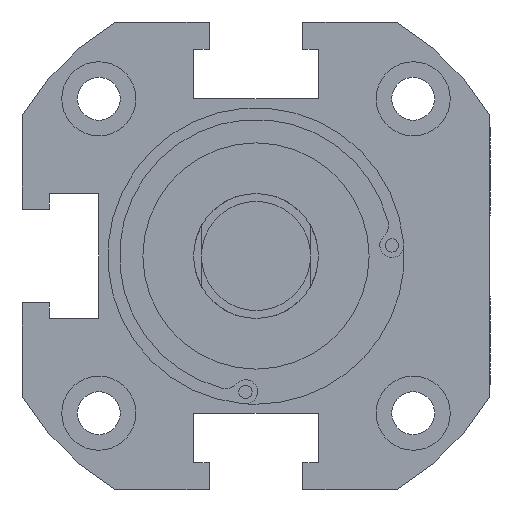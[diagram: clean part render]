
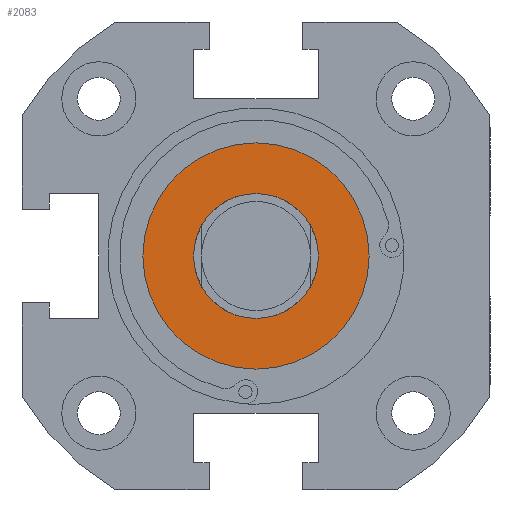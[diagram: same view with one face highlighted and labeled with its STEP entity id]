
A CAD part, front view. The second image highlights one B-rep face of the part: STEP entity #2083.
In plain terms, the highlighted planar face has unit normal (0, -1, 0).
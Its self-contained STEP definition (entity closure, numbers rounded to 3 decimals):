
#61 = CARTESIAN_POINT ( 'NONE',  ( 0., -43., 0. ) ) ;
#75 = ORIENTED_EDGE ( 'NONE', *, *, #3482, .F. ) ;
#205 = ORIENTED_EDGE ( 'NONE', *, *, #2460, .F. ) ;
#317 = AXIS2_PLACEMENT_3D ( 'NONE', #751, #4262, #4217 ) ;
#465 = AXIS2_PLACEMENT_3D ( 'NONE', #2606, #4341, #3596 ) ;
#586 = AXIS2_PLACEMENT_3D ( 'NONE', #61, #3945, #2130 ) ;
#730 = VERTEX_POINT ( 'NONE', #1348 ) ;
#751 = CARTESIAN_POINT ( 'NONE',  ( 0., -43., 0. ) ) ;
#850 = EDGE_CURVE ( 'NONE', #4226, #730, #2474, .T. ) ;
#1038 = CIRCLE ( 'NONE', #465, 14.5 ) ;
#1215 = CARTESIAN_POINT ( 'NONE',  ( 0., -43., -8. ) ) ;
#1270 = DIRECTION ( 'NONE',  ( 0., 0., 1. ) ) ;
#1348 = CARTESIAN_POINT ( 'NONE',  ( 0., -43., 8. ) ) ;
#1491 = EDGE_LOOP ( 'NONE', ( #75, #205 ) ) ;
#1564 = AXIS2_PLACEMENT_3D ( 'NONE', #1981, #3717, #1920 ) ;
#1619 = DIRECTION ( 'NONE',  ( 0., 1., 0. ) ) ;
#1920 = DIRECTION ( 'NONE',  ( 0., 0., 1. ) ) ;
#1956 = FACE_BOUND ( 'NONE', #3777, .T. ) ;
#1981 = CARTESIAN_POINT ( 'NONE',  ( 0., -43., 0. ) ) ;
#2083 = ADVANCED_FACE ( 'NONE', ( #3561, #1956 ), #3045, .F. ) ;
#2093 = ORIENTED_EDGE ( 'NONE', *, *, #850, .T. ) ;
#2130 = DIRECTION ( 'NONE',  ( 0., 0., 1. ) ) ;
#2141 = CARTESIAN_POINT ( 'NONE',  ( 0., -43., 14.5 ) ) ;
#2460 = EDGE_CURVE ( 'NONE', #3804, #3909, #1038, .T. ) ;
#2474 = CIRCLE ( 'NONE', #586, 8. ) ;
#2606 = CARTESIAN_POINT ( 'NONE',  ( 0., -43., 0. ) ) ;
#2610 = AXIS2_PLACEMENT_3D ( 'NONE', #3418, #1619, #1270 ) ;
#2814 = EDGE_CURVE ( 'NONE', #730, #4226, #3063, .T. ) ;
#3045 = PLANE ( 'NONE',  #2610 ) ;
#3063 = CIRCLE ( 'NONE', #317, 8. ) ;
#3418 = CARTESIAN_POINT ( 'NONE',  ( 0., -43., 0. ) ) ;
#3482 = EDGE_CURVE ( 'NONE', #3909, #3804, #3672, .T. ) ;
#3561 = FACE_OUTER_BOUND ( 'NONE', #1491, .T. ) ;
#3596 = DIRECTION ( 'NONE',  ( 0., 0., 1. ) ) ;
#3672 = CIRCLE ( 'NONE', #1564, 14.5 ) ;
#3717 = DIRECTION ( 'NONE',  ( 0., 1., 0. ) ) ;
#3777 = EDGE_LOOP ( 'NONE', ( #3780, #2093 ) ) ;
#3780 = ORIENTED_EDGE ( 'NONE', *, *, #2814, .T. ) ;
#3804 = VERTEX_POINT ( 'NONE', #2141 ) ;
#3909 = VERTEX_POINT ( 'NONE', #4019 ) ;
#3945 = DIRECTION ( 'NONE',  ( 0., 1., 0. ) ) ;
#4019 = CARTESIAN_POINT ( 'NONE',  ( 0., -43., -14.5 ) ) ;
#4217 = DIRECTION ( 'NONE',  ( 0., 0., 1. ) ) ;
#4226 = VERTEX_POINT ( 'NONE', #1215 ) ;
#4262 = DIRECTION ( 'NONE',  ( 0., 1., 0. ) ) ;
#4341 = DIRECTION ( 'NONE',  ( 0., 1., 0. ) ) ;
